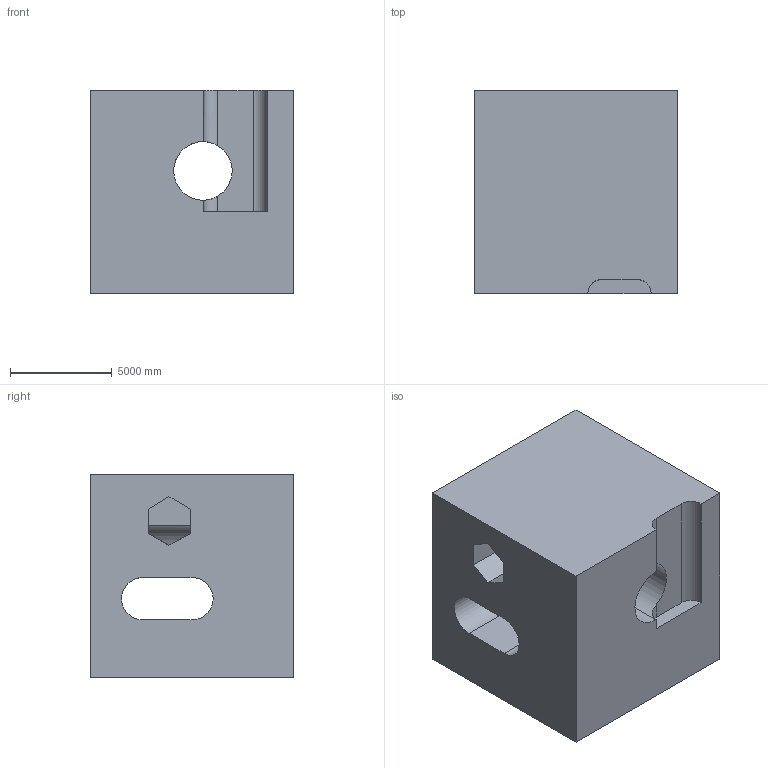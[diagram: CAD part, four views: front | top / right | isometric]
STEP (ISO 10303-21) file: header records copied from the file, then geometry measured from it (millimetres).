
FILE_DESCRIPTION (( 'STEP AP203' ), '1' );
FILE_NAME ('465.STEP', '2022-07-29T11:23:28', ( 'user' ), ( '' ), 'SwSTEP 2.0', 'SolidWorks 2021', '' );
FILE_SCHEMA (( 'CONFIG_CONTROL_DESIGN' ));
Length unit declared in the file: centimetre
Products named in the file (1): 465
Bounding box: 10000 x 10000 x 10000 mm (x, y, z)
Volume: 809905320632.1 mm3; surface area: 790878762.4 mm2
Topology: 1 solids, 1 shells, 27 faces, 87 edges, 58 vertices
Faces by surface type: plane 19, cylinder 8
Entity records: 1428 total; most frequent: CARTESIAN_POINT 565, ORIENTED_EDGE 174, DIRECTION 155, EDGE_CURVE 87, VECTOR 59, LINE 59, VERTEX_POINT 58, AXIS2_PLACEMENT_3D 48
